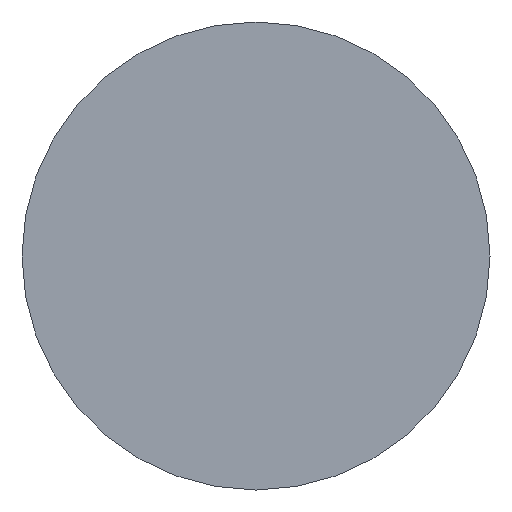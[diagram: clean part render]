
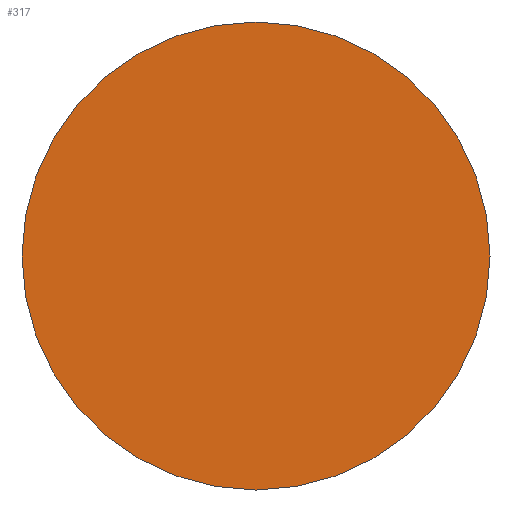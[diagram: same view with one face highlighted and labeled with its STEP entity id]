
A CAD part, left-side view. The second image highlights one B-rep face of the part: STEP entity #317.
In plain terms, the highlighted planar face has unit normal (-1, 0, 0).
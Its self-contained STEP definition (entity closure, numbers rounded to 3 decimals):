
#8 = CARTESIAN_POINT ( 'NONE',  ( 0., 0., -12.5 ) ) ;
#47 = CARTESIAN_POINT ( 'NONE',  ( 0., 0., 12.5 ) ) ;
#50 = FACE_OUTER_BOUND ( 'NONE', #293, .T. ) ;
#51 = PLANE ( 'NONE',  #52 ) ;
#52 = AXIS2_PLACEMENT_3D ( 'NONE', #53, #54, #55 ) ;
#53 = CARTESIAN_POINT ( 'NONE',  ( 0., 0., 0. ) ) ;
#54 = DIRECTION ( 'NONE',  ( 1., 0., 0. ) ) ;
#55 = DIRECTION ( 'NONE',  ( 0., 0., -1. ) ) ;
#84 = ORIENTED_EDGE ( 'NONE', *, *, #281, .T. ) ;
#102 = CIRCLE ( 'NONE', #103, 12.5 ) ;
#103 = AXIS2_PLACEMENT_3D ( 'NONE', #104, #105, #106 ) ;
#104 = CARTESIAN_POINT ( 'NONE',  ( 0., 0., 0. ) ) ;
#105 = DIRECTION ( 'NONE',  ( -1., 0., 0. ) ) ;
#106 = DIRECTION ( 'NONE',  ( 0., 0., 1. ) ) ;
#119 = CIRCLE ( 'NONE', #120, 12.5 ) ;
#120 = AXIS2_PLACEMENT_3D ( 'NONE', #121, #122, #123 ) ;
#121 = CARTESIAN_POINT ( 'NONE',  ( 0., 0., 0. ) ) ;
#122 = DIRECTION ( 'NONE',  ( -1., 0., 0. ) ) ;
#123 = DIRECTION ( 'NONE',  ( 0., 0., 1. ) ) ;
#187 = VERTEX_POINT ( 'NONE', #47 ) ;
#276 = EDGE_CURVE ( 'NONE', #355, #187, #102, .T. ) ;
#281 = EDGE_CURVE ( 'NONE', #187, #355, #119, .T. ) ;
#293 = EDGE_LOOP ( 'NONE', ( #84, #302 ) ) ;
#302 = ORIENTED_EDGE ( 'NONE', *, *, #276, .T. ) ;
#317 = ADVANCED_FACE ( 'NONE', ( #50 ), #51, .F. ) ;
#355 = VERTEX_POINT ( 'NONE', #8 ) ;
